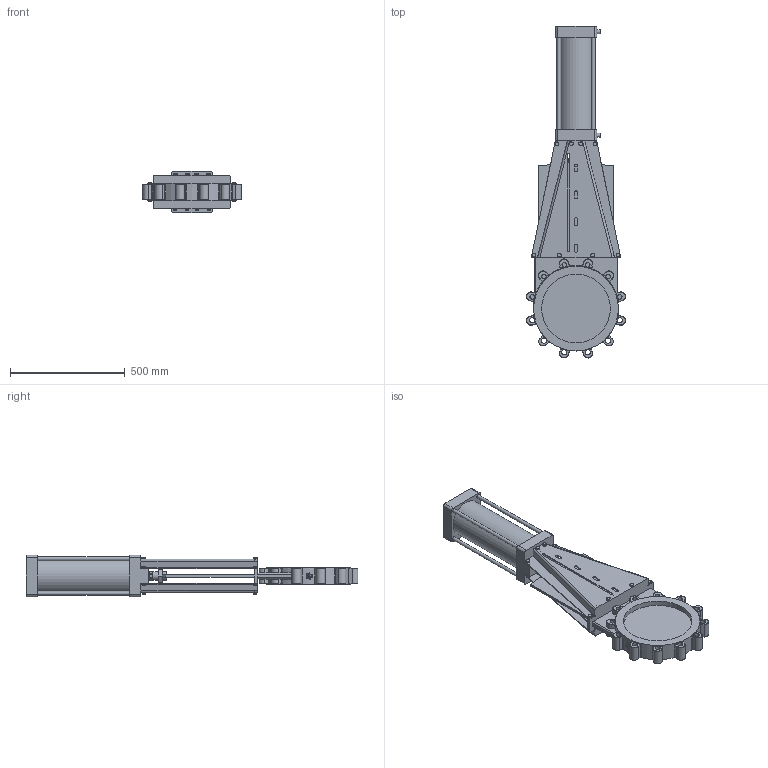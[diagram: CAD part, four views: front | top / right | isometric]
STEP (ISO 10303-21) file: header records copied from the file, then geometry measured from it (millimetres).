
FILE_DESCRIPTION(('STEP AP242'), '1');
FILE_NAME('GVKR1331M-1W-Fb-2P Çàäâèæêà øèáåðíàÿ ñ âûäâèæíûì øòîêîì DN.ru Äó300 Ðó6', '2026-05-25T21:36:09', ('R2D2'), (''), 'C3D Converter', 'C3D Toolkit', '');
FILE_SCHEMA(('AP242_MANAGED_MODEL_BASED_3D_ENGINEERING_MIM_LF { 1 0 10303 442 1 1 4 }'));
Length unit declared in the file: millimetre
Products named in the file (1): GVKR1331M-1W-Fb-2P
Bounding box: 431.05 x 1447.52 x 180 mm (x, y, z)
Volume: 21993983.3 mm3; surface area: 2010012.8 mm2
Topology: 1 solids, 1 shells, 1230 faces, 3075 edges, 1822 vertices
Faces by surface type: plane 502, cylinder 232, bspline 168, extrusion 139, cone 96, torus 93
Full cylindrical faces by diameter (mm): 13 x8, 16 x14, 20 x12, 23 x6, 25 x2, 36 x1, 40 x1, 160 x1, 300 x2, 370 x1
Entity records: 68665 total; most frequent: CARTESIAN_POINT 31825, ORIENTED_EDGE 5924, DIRECTION 4984, EDGE_CURVE 2962, AXIS2_PLACEMENT_3D 1828, VERTEX_POINT 1822, EDGE_LOOP 1370, VECTOR 1328
